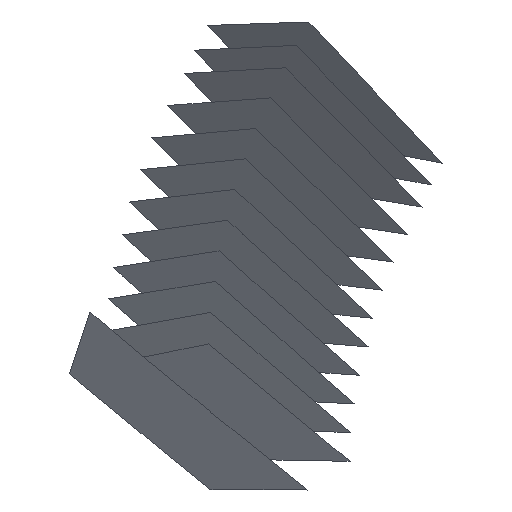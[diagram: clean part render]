
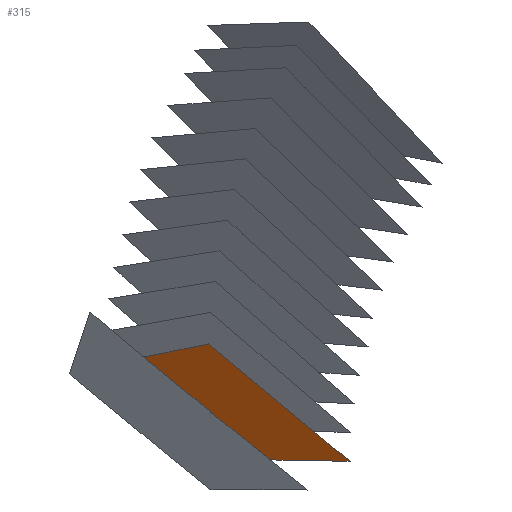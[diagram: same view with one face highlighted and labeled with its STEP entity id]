
A CAD part, isometric view. The second image highlights one B-rep face of the part: STEP entity #315.
In plain terms, the highlighted free-form (B-spline) face has degree [1, 1] with [2, 2] control points.
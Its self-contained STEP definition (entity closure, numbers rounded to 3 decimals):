
#315 = ADVANCED_FACE('',(#316),#329,.T.);
#316 = FACE_BOUND('',#317,.T.);
#317 = EDGE_LOOP('',(#318,#339,#353,#367,#381,#395,#409,#423,#437));
#318 = ORIENTED_EDGE('',*,*,#319,.T.);
#319 = EDGE_CURVE('',#320,#322,#324,.T.);
#320 = VERTEX_POINT('',#321);
#321 = CARTESIAN_POINT('',(41.007,62.796,
    16.328));
#322 = VERTEX_POINT('',#323);
#323 = CARTESIAN_POINT('',(45.382,58.134,
    10.));
#324 = SURFACE_CURVE('',#325,(#328),.PCURVE_S1.);
#325 = B_SPLINE_CURVE_WITH_KNOTS('',1,(#326,#327),.UNSPECIFIED.,.F.,.F.,
  (2,2),(-8.995,-0.),.PIECEWISE_BEZIER_KNOTS.);
#326 = CARTESIAN_POINT('',(41.007,62.796,
    16.328));
#327 = CARTESIAN_POINT('',(45.382,58.134,
    10.));
#328 = PCURVE('',#329,#334);
#329 = B_SPLINE_SURFACE_WITH_KNOTS('',1,1,(
    (#330,#331)
    ,(#332,#333
    )),.UNSPECIFIED.,.F.,.F.,.F.,(2,2),(2,2),(-2.738,
    3.59),(-5.577,5.626),
  .PIECEWISE_BEZIER_KNOTS.);
#330 = CARTESIAN_POINT('',(37.712,66.3,
    10.002));
#331 = CARTESIAN_POINT('',(45.382,58.134,9.997)
  );
#332 = CARTESIAN_POINT('',(37.716,66.3,
    16.331));
#333 = CARTESIAN_POINT('',(45.386,58.134,
    16.325));
#334 = DEFINITIONAL_REPRESENTATION('',(#335),#338);
#335 = B_SPLINE_CURVE_WITH_KNOTS('',1,(#336,#337),.UNSPECIFIED.,.F.,.F.,
  (2,2),(-8.995,-0.),.PIECEWISE_BEZIER_KNOTS.);
#336 = CARTESIAN_POINT('',(3.59,-0.77));
#337 = CARTESIAN_POINT('',(-2.735,5.626));
#338 = ( GEOMETRIC_REPRESENTATION_CONTEXT(2) 
PARAMETRIC_REPRESENTATION_CONTEXT() REPRESENTATION_CONTEXT('2D SPACE',''
  ) );
#339 = ORIENTED_EDGE('',*,*,#340,.T.);
#340 = EDGE_CURVE('',#322,#341,#343,.T.);
#341 = VERTEX_POINT('',#342);
#342 = CARTESIAN_POINT('',(44.558,59.011,
    10.));
#343 = SURFACE_CURVE('',#344,(#347),.PCURVE_S1.);
#344 = B_SPLINE_CURVE_WITH_KNOTS('',1,(#345,#346),.UNSPECIFIED.,.F.,.F.,
  (2,2),(0.,1.204),.PIECEWISE_BEZIER_KNOTS.);
#345 = CARTESIAN_POINT('',(45.382,58.134,
    10.));
#346 = CARTESIAN_POINT('',(44.558,59.011,
    10.));
#347 = PCURVE('',#329,#348);
#348 = DEFINITIONAL_REPRESENTATION('',(#349),#352);
#349 = B_SPLINE_CURVE_WITH_KNOTS('',1,(#350,#351),.UNSPECIFIED.,.F.,.F.,
  (2,2),(0.,1.204),.PIECEWISE_BEZIER_KNOTS.);
#350 = CARTESIAN_POINT('',(-2.735,5.626));
#351 = CARTESIAN_POINT('',(-2.736,4.423));
#352 = ( GEOMETRIC_REPRESENTATION_CONTEXT(2) 
PARAMETRIC_REPRESENTATION_CONTEXT() REPRESENTATION_CONTEXT('2D SPACE',''
  ) );
#353 = ORIENTED_EDGE('',*,*,#354,.T.);
#354 = EDGE_CURVE('',#341,#355,#357,.T.);
#355 = VERTEX_POINT('',#356);
#356 = CARTESIAN_POINT('',(43.189,60.469,10.
    ));
#357 = SURFACE_CURVE('',#358,(#361),.PCURVE_S1.);
#358 = B_SPLINE_CURVE_WITH_KNOTS('',1,(#359,#360),.UNSPECIFIED.,.F.,.F.,
  (2,2),(0.,2.),.PIECEWISE_BEZIER_KNOTS.);
#359 = CARTESIAN_POINT('',(44.558,59.011,
    10.));
#360 = CARTESIAN_POINT('',(43.189,60.469,10.
    ));
#361 = PCURVE('',#329,#362);
#362 = DEFINITIONAL_REPRESENTATION('',(#363),#366);
#363 = B_SPLINE_CURVE_WITH_KNOTS('',1,(#364,#365),.UNSPECIFIED.,.F.,.F.,
  (2,2),(0.,2.),.PIECEWISE_BEZIER_KNOTS.);
#364 = CARTESIAN_POINT('',(-2.736,4.423));
#365 = CARTESIAN_POINT('',(-2.737,2.422));
#366 = ( GEOMETRIC_REPRESENTATION_CONTEXT(2) 
PARAMETRIC_REPRESENTATION_CONTEXT() REPRESENTATION_CONTEXT('2D SPACE',''
  ) );
#367 = ORIENTED_EDGE('',*,*,#368,.T.);
#368 = EDGE_CURVE('',#355,#369,#371,.T.);
#369 = VERTEX_POINT('',#370);
#370 = CARTESIAN_POINT('',(41.819,61.927,
    10.));
#371 = SURFACE_CURVE('',#372,(#375),.PCURVE_S1.);
#372 = B_SPLINE_CURVE_WITH_KNOTS('',1,(#373,#374),.UNSPECIFIED.,.F.,.F.,
  (2,2),(0.,2.),.PIECEWISE_BEZIER_KNOTS.);
#373 = CARTESIAN_POINT('',(43.189,60.469,10.
    ));
#374 = CARTESIAN_POINT('',(41.819,61.927,
    10.));
#375 = PCURVE('',#329,#376);
#376 = DEFINITIONAL_REPRESENTATION('',(#377),#380);
#377 = B_SPLINE_CURVE_WITH_KNOTS('',1,(#378,#379),.UNSPECIFIED.,.F.,.F.,
  (2,2),(0.,2.),.PIECEWISE_BEZIER_KNOTS.);
#378 = CARTESIAN_POINT('',(-2.737,2.422));
#379 = CARTESIAN_POINT('',(-2.737,0.422));
#380 = ( GEOMETRIC_REPRESENTATION_CONTEXT(2) 
PARAMETRIC_REPRESENTATION_CONTEXT() REPRESENTATION_CONTEXT('2D SPACE',''
  ) );
#381 = ORIENTED_EDGE('',*,*,#382,.T.);
#382 = EDGE_CURVE('',#369,#383,#385,.T.);
#383 = VERTEX_POINT('',#384);
#384 = CARTESIAN_POINT('',(41.177,62.611,
    10.));
#385 = SURFACE_CURVE('',#386,(#389),.PCURVE_S1.);
#386 = B_SPLINE_CURVE_WITH_KNOTS('',1,(#387,#388),.UNSPECIFIED.,.F.,.F.,
  (2,2),(0.,0.939),.PIECEWISE_BEZIER_KNOTS.);
#387 = CARTESIAN_POINT('',(41.819,61.927,
    10.));
#388 = CARTESIAN_POINT('',(41.177,62.611,
    10.));
#389 = PCURVE('',#329,#390);
#390 = DEFINITIONAL_REPRESENTATION('',(#391),#394);
#391 = B_SPLINE_CURVE_WITH_KNOTS('',1,(#392,#393),.UNSPECIFIED.,.F.,.F.,
  (2,2),(0.,0.939),.PIECEWISE_BEZIER_KNOTS.);
#392 = CARTESIAN_POINT('',(-2.737,0.422));
#393 = CARTESIAN_POINT('',(-2.738,-0.516));
#394 = ( GEOMETRIC_REPRESENTATION_CONTEXT(2) 
PARAMETRIC_REPRESENTATION_CONTEXT() REPRESENTATION_CONTEXT('2D SPACE',''
  ) );
#395 = ORIENTED_EDGE('',*,*,#396,.T.);
#396 = EDGE_CURVE('',#383,#397,#399,.T.);
#397 = VERTEX_POINT('',#398);
#398 = CARTESIAN_POINT('',(38.38,65.592,
    14.045));
#399 = SURFACE_CURVE('',#400,(#403),.PCURVE_S1.);
#400 = B_SPLINE_CURVE_WITH_KNOTS('',1,(#401,#402),.UNSPECIFIED.,.F.,.F.,
  (2,2),(0.,5.75),.PIECEWISE_BEZIER_KNOTS.);
#401 = CARTESIAN_POINT('',(41.177,62.611,
    10.));
#402 = CARTESIAN_POINT('',(38.38,65.592,
    14.045));
#403 = PCURVE('',#329,#404);
#404 = DEFINITIONAL_REPRESENTATION('',(#405),#408);
#405 = B_SPLINE_CURVE_WITH_KNOTS('',1,(#406,#407),.UNSPECIFIED.,.F.,.F.,
  (2,2),(0.,5.75),.PIECEWISE_BEZIER_KNOTS.);
#406 = CARTESIAN_POINT('',(-2.738,-0.516));
#407 = CARTESIAN_POINT('',(1.305,-4.605));
#408 = ( GEOMETRIC_REPRESENTATION_CONTEXT(2) 
PARAMETRIC_REPRESENTATION_CONTEXT() REPRESENTATION_CONTEXT('2D SPACE',''
  ) );
#409 = ORIENTED_EDGE('',*,*,#410,.T.);
#410 = EDGE_CURVE('',#397,#411,#413,.T.);
#411 = VERTEX_POINT('',#412);
#412 = CARTESIAN_POINT('',(38.359,65.614,
    14.076));
#413 = SURFACE_CURVE('',#414,(#417),.PCURVE_S1.);
#414 = B_SPLINE_CURVE_WITH_KNOTS('',1,(#415,#416),.UNSPECIFIED.,.F.,.F.,
  (2,2),(0.,0.043),.PIECEWISE_BEZIER_KNOTS.);
#415 = CARTESIAN_POINT('',(38.38,65.592,
    14.045));
#416 = CARTESIAN_POINT('',(38.359,65.614,
    14.076));
#417 = PCURVE('',#329,#418);
#418 = DEFINITIONAL_REPRESENTATION('',(#419),#422);
#419 = B_SPLINE_CURVE_WITH_KNOTS('',1,(#420,#421),.UNSPECIFIED.,.F.,.F.,
  (2,2),(0.,0.043),.PIECEWISE_BEZIER_KNOTS.);
#420 = CARTESIAN_POINT('',(1.305,-4.605));
#421 = CARTESIAN_POINT('',(1.336,-4.636));
#422 = ( GEOMETRIC_REPRESENTATION_CONTEXT(2) 
PARAMETRIC_REPRESENTATION_CONTEXT() REPRESENTATION_CONTEXT('2D SPACE',''
  ) );
#423 = ORIENTED_EDGE('',*,*,#424,.T.);
#424 = EDGE_CURVE('',#411,#425,#427,.T.);
#425 = VERTEX_POINT('',#426);
#426 = CARTESIAN_POINT('',(37.715,66.3,
    15.017));
#427 = SURFACE_CURVE('',#428,(#431),.PCURVE_S1.);
#428 = B_SPLINE_CURVE_WITH_KNOTS('',1,(#429,#430),.UNSPECIFIED.,.F.,.F.,
  (2,2),(-1.331,-0.),.PIECEWISE_BEZIER_KNOTS.);
#429 = CARTESIAN_POINT('',(38.359,65.614,
    14.076));
#430 = CARTESIAN_POINT('',(37.715,66.3,
    15.017));
#431 = PCURVE('',#329,#432);
#432 = DEFINITIONAL_REPRESENTATION('',(#433),#436);
#433 = B_SPLINE_CURVE_WITH_KNOTS('',1,(#434,#435),.UNSPECIFIED.,.F.,.F.,
  (2,2),(-1.331,-0.),.PIECEWISE_BEZIER_KNOTS.);
#434 = CARTESIAN_POINT('',(1.336,-4.636));
#435 = CARTESIAN_POINT('',(2.277,-5.577));
#436 = ( GEOMETRIC_REPRESENTATION_CONTEXT(2) 
PARAMETRIC_REPRESENTATION_CONTEXT() REPRESENTATION_CONTEXT('2D SPACE',''
  ) );
#437 = ORIENTED_EDGE('',*,*,#438,.T.);
#438 = EDGE_CURVE('',#425,#320,#439,.T.);
#439 = SURFACE_CURVE('',#440,(#443),.PCURVE_S1.);
#440 = B_SPLINE_CURVE_WITH_KNOTS('',1,(#441,#442),.UNSPECIFIED.,.F.,.F.,
  (2,2),(-4.983,-0.),.PIECEWISE_BEZIER_KNOTS.);
#441 = CARTESIAN_POINT('',(37.715,66.3,
    15.017));
#442 = CARTESIAN_POINT('',(41.007,62.796,
    16.328));
#443 = PCURVE('',#329,#444);
#444 = DEFINITIONAL_REPRESENTATION('',(#445),#448);
#445 = B_SPLINE_CURVE_WITH_KNOTS('',1,(#446,#447),.UNSPECIFIED.,.F.,.F.,
  (2,2),(-4.983,-0.),.PIECEWISE_BEZIER_KNOTS.);
#446 = CARTESIAN_POINT('',(2.277,-5.577));
#447 = CARTESIAN_POINT('',(3.59,-0.77));
#448 = ( GEOMETRIC_REPRESENTATION_CONTEXT(2) 
PARAMETRIC_REPRESENTATION_CONTEXT() REPRESENTATION_CONTEXT('2D SPACE',''
  ) );
